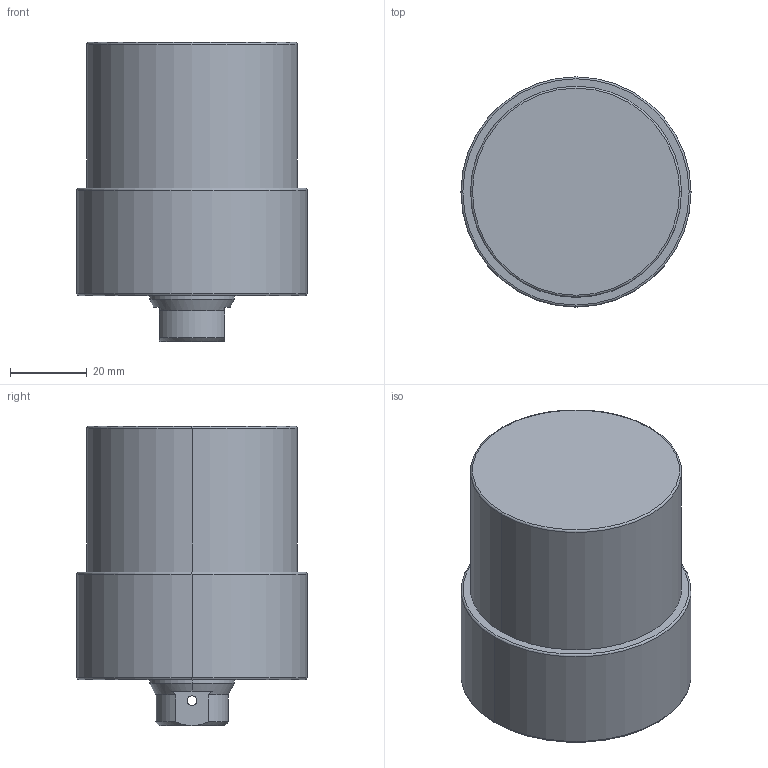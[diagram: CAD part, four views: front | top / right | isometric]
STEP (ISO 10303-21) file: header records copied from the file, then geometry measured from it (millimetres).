
FILE_DESCRIPTION (( 'STEP AP203' ), '1' );
FILE_NAME ('CLLU055-CB-025.STEP', '2017-05-12T11:19:44', ( '' ), ( '' ), 'SwSTEP 2.0', 'SolidWorks 2015', '' );
FILE_SCHEMA (( 'CONFIG_CONTROL_DESIGN' ));
Length unit declared in the file: millimetre
Products named in the file (1): CLLU055-CB-025
Bounding box: 60 x 60 x 78 mm (x, y, z)
Volume: 169740.4 mm3; surface area: 19937.1 mm2
Topology: 1 solids, 1 shells, 66 faces, 152 edges, 85 vertices
Faces by surface type: cylinder 26, cone 24, plane 10, torus 6
Entity records: 1971 total; most frequent: CARTESIAN_POINT 414, DIRECTION 340, ORIENTED_EDGE 284, AXIS2_PLACEMENT_3D 143, EDGE_CURVE 142, VERTEX_POINT 85, EDGE_LOOP 77, CIRCLE 76
